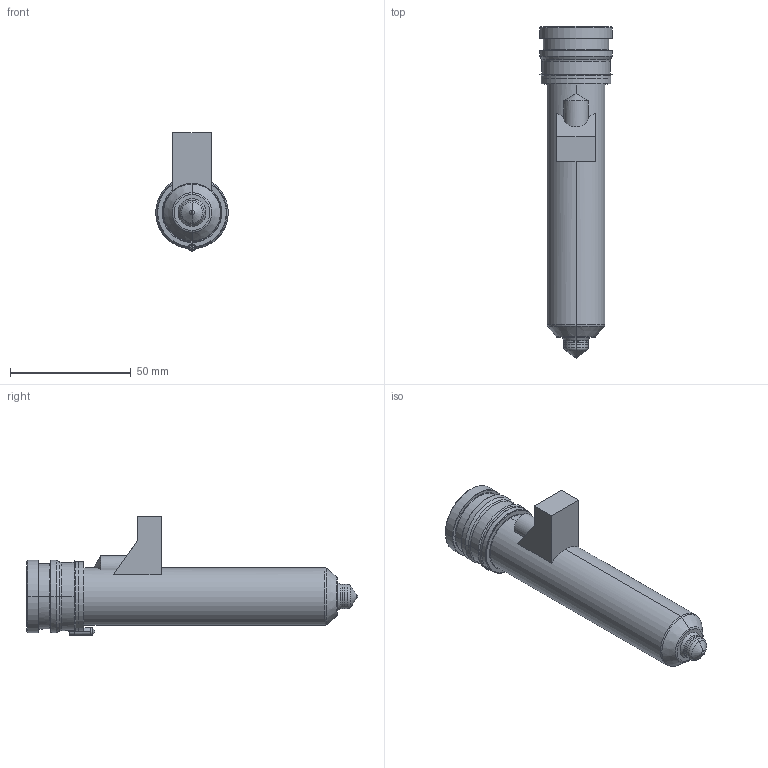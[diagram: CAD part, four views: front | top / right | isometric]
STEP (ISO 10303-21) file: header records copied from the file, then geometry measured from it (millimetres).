
FILE_DESCRIPTION((''),'2;1');
FILE_NAME('MPN-10-29-TX10-116-M','2026-02-05T12:51:15',('UPTIO'),('Thermoplay S.p.A.'),'CREO PARAMETRIC BY PTC INC, 2023494','CREO PARAMETRIC BY PTC INC, 2023494','');
FILE_SCHEMA(('CONFIG_CONTROL_DESIGN','SHAPE_APPEARANCE_LAYERS_GROUPS'));
Length unit declared in the file: millimetre
Products named in the file (1): MPN-10-29-TX10-116-M
Bounding box: 30 x 137.5 x 49 mm (x, y, z)
Volume: 43164.7 mm3; surface area: 44258.6 mm2
Topology: 3 solids, 5 shells, 541 faces, 1383 edges, 844 vertices
Faces by surface type: cylinder 177, plane 146, bspline 73, torus 67, cone 64, sphere 10, extrusion 4
Entity records: 26875 total; most frequent: CARTESIAN_POINT 11109, ORIENTED_EDGE 2748, DIRECTION 2568, EDGE_CURVE 1374, AXIS2_PLACEMENT_3D 1017, VERTEX_POINT 844, EDGE_LOOP 570, CIRCLE 552
